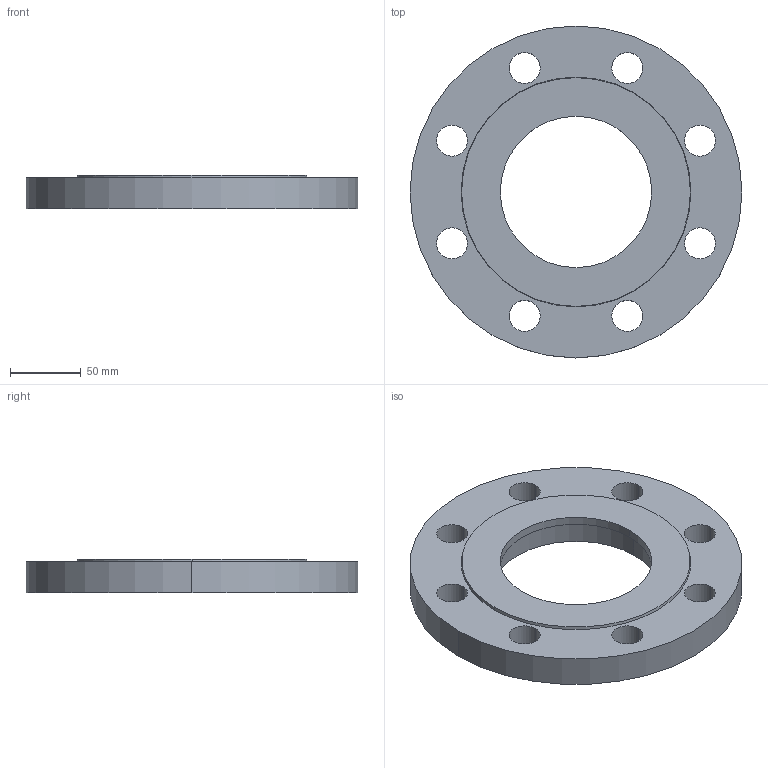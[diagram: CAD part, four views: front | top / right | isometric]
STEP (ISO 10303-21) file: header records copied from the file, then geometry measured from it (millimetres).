
FILE_DESCRIPTION (( 'STEP AP214' ), '1' );
FILE_NAME ('PN40 DN100 Type 05 - Socket (Type B) - Not in Standard.STEP', '2019-01-02T00:26:49', ( '' ), ( '' ), 'SwSTEP 2.0', 'SolidWorks 2019', '' );
FILE_SCHEMA (( 'AUTOMOTIVE_DESIGN' ));
Length unit declared in the file: millimetre
Products named in the file (1): PN40 DN100 Type 05 - Socket (Type B) - Not in Standard
Bounding box: 235 x 235 x 24 mm (x, y, z)
Volume: 684437.1 mm3; surface area: 100488.1 mm2
Topology: 1 solids, 1 shells, 28 faces, 72 edges, 48 vertices
Faces by surface type: cylinder 22, plane 4, cone 2
Entity records: 954 total; most frequent: DIRECTION 178, CARTESIAN_POINT 149, ORIENTED_EDGE 144, AXIS2_PLACEMENT_3D 77, EDGE_CURVE 72, CIRCLE 48, VERTEX_POINT 48, EDGE_LOOP 48
